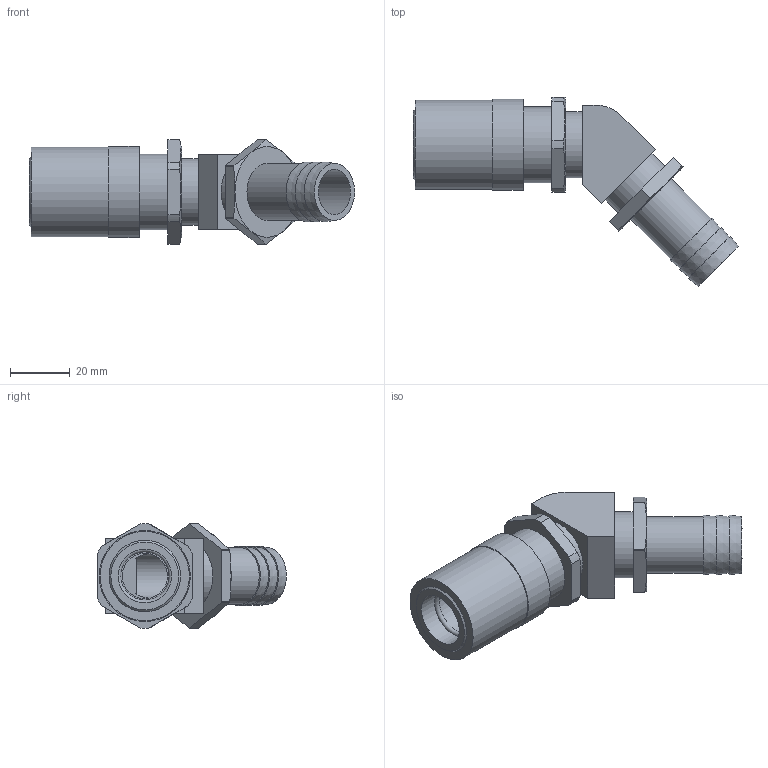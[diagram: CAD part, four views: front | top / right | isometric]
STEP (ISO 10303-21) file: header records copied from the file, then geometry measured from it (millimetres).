
FILE_DESCRIPTION(/* description */ ('STEP AP214'),/* implementation_level */ '2;1');
FILE_NAME(/* name */ 'JS-526-V',/* time_stamp */ '2024-12-19T08:59:13+01:00',/* author */ ('License CC BY-ND 4.0'),/* organization */ ('CADENAS'),/* preprocessor_version */ 'ST-DEVELOPER v19.3',/* originating_system */ 'PARTsolutions',/* authorisation */ ' ');
FILE_SCHEMA (('AUTOMOTIVE_DESIGN {1 0 10303 214 3 1 1}'));
Length unit declared in the file: inch
Products named in the file (1): JS-526-V
Bounding box: 109.1 x 63.43 x 35.18 mm (x, y, z)
Volume: 42366.9 mm3; surface area: 19215.1 mm2
Topology: 1 solids, 1 shells, 70 faces, 158 edges, 103 vertices
Faces by surface type: plane 35, cylinder 23, cone 11, torus 1
Full cylindrical faces by diameter (mm): 15.24 x2, 17.983 x2, 19.05 x1, 22.225 x2, 25.4 x1, 29.972 x1, 30.571 x1
Entity records: 1937 total; most frequent: CARTESIAN_POINT 394, DIRECTION 325, ORIENTED_EDGE 276, EDGE_CURVE 138, AXIS2_PLACEMENT_3D 136, EDGE_LOOP 101, FACE_BOUND 101, VERTEX_POINT 99
